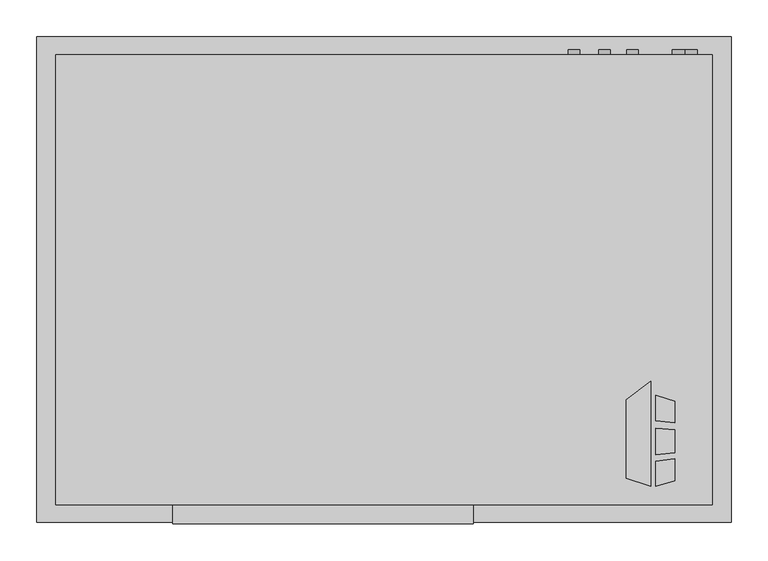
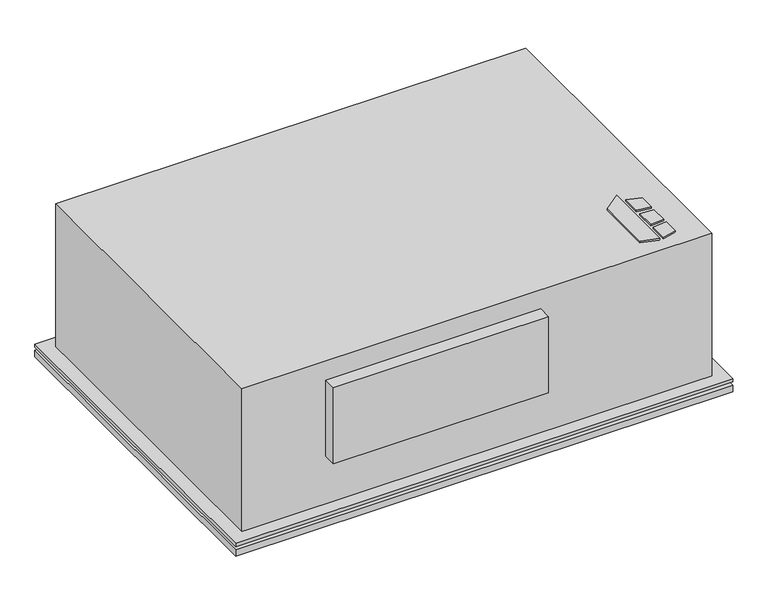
"""IFC4 building model written with IfcOpenShell, lengths in millimetres: proxy geometry, Horizontal_Telescoping_Fan_Coil_Unit_-_CBY_-_IEC_-_4-Pipe_RH_2022 : Size 02 - 277v/60Hz/1Ph - 4/1 Coil."""

from ifc_helpers import new_model, si_unit, point, frame, frame_2d, origin, origin_with_axes, place, context, project, spatial, polyline, circle_curve, trimmed, segment, composite_curve, outline, extrude, source, transform, mapped, element, save


def mechanical_equipment_7146fa5c(model_context):
    return source(origin(), model_context, "Body", "SweptSolid", [
        extrude(outline(polyline([(480.7019761, -401.0078476), (513.2602728, -375.5705184), (513.2602728, -517.525), (480.7019761, -507.3054201), (480.7019761, -401.0078476)])), origin_with_axes(), (0.0, 0.0, 1.0), 3.175),
        extrude(outline(polyline([(520.0186058, -428.879852), (520.0186058, -394.3999379), (546.1, -402.5865115), (546.1, -432.0822446), (520.0186058, -428.879852)])), origin_with_axes(), (0.0, 0.0, 1.0), 3.175),
        extrude(outline(polyline([(546.1, -510.5365115), (520.0186058, -517.525), (520.0186058, -484.3036996), (546.1, -480.7618564), (546.1, -510.5365115)])), origin_with_axes(), (0.0, 0.0, 1.0), 3.175),
        extrude(outline(polyline([(546.1, -441.1638277), (546.1, -472.413983), (520.0186058, -475.155248), (520.0186058, -439.2975378), (546.1, -441.1638277)])), origin_with_axes(), (0.0, 0.0, 1.0), 3.175),
        extrude(outline(composite_curve([segment(trimmed(circle_curve(frame_2d((-60.325, 409.575)), 7.9375), [point((-60.325, 417.5125))], [point((-60.325, 401.6375))], False, "CARTESIAN"), True, "CONTINUOUS"), segment(trimmed(circle_curve(frame_2d((-60.325, 409.575)), 7.9375), [point((-60.325, 401.6375))], [point((-60.325, 417.5125))], False, "CARTESIAN"), True, "CONTINUOUS")], self_intersect=False)), frame((0.0, 66.675, 0.0), z_axis=(0.0, 1.0, 0.0), x_axis=(0.0, 0.0, 1.0)), (0.0, 0.0, 1.0), 6.35),
        extrude(outline(composite_curve([segment(trimmed(circle_curve(frame_2d((-95.25, 450.85)), 7.9375), [point((-95.25, 458.7875))], [point((-95.25, 442.9125))], False, "CARTESIAN"), True, "CONTINUOUS"), segment(trimmed(circle_curve(frame_2d((-95.25, 450.85)), 7.9375), [point((-95.25, 442.9125))], [point((-95.25, 458.7875))], False, "CARTESIAN"), True, "CONTINUOUS")], self_intersect=False)), frame((0.0, 66.675, 0.0), z_axis=(0.0, 1.0, 0.0), x_axis=(0.0, 0.0, 1.0)), (0.0, 0.0, 1.0), 6.35),
        extrude(outline(composite_curve([segment(trimmed(circle_curve(frame_2d((-44.45, 488.95)), 7.9375), [point((-44.45, 496.8875))], [point((-44.45, 481.0125))], False, "CARTESIAN"), True, "CONTINUOUS"), segment(trimmed(circle_curve(frame_2d((-44.45, 488.95)), 7.9375), [point((-44.45, 481.0125))], [point((-44.45, 496.8875))], False, "CARTESIAN"), True, "CONTINUOUS")], self_intersect=False)), frame((0.0, 66.675, 0.0), z_axis=(0.0, 1.0, 0.0), x_axis=(0.0, 0.0, 1.0)), (0.0, 0.0, 1.0), 6.35),
        extrude(outline(composite_curve([segment(trimmed(circle_curve(frame_2d((-85.725, 568.325)), 7.9375), [point((-85.725, 576.2625))], [point((-85.725, 560.3875))], False, "CARTESIAN"), True, "CONTINUOUS"), segment(trimmed(circle_curve(frame_2d((-85.725, 568.325)), 7.9375), [point((-85.725, 560.3875))], [point((-85.725, 576.2625))], False, "CARTESIAN"), True, "CONTINUOUS")], self_intersect=False)), frame((0.0, 66.675, 0.0), z_axis=(0.0, 1.0, 0.0), x_axis=(0.0, 0.0, 1.0)), (0.0, 0.0, 1.0), 6.35),
        extrude(outline(composite_curve([segment(trimmed(circle_curve(frame_2d((-260.35, 552.45)), 9.525), [point((-260.35, 561.975))], [point((-260.35, 542.925))], False, "CARTESIAN"), True, "CONTINUOUS"), segment(trimmed(circle_curve(frame_2d((-260.35, 552.45)), 9.525), [point((-260.35, 542.925))], [point((-260.35, 561.975))], False, "CARTESIAN"), True, "CONTINUOUS")], self_intersect=False)), frame((0.0, 66.675, 0.0), z_axis=(0.0, 1.0, 0.0), x_axis=(0.0, 0.0, 1.0)), (0.0, 0.0, 1.0), 6.35),
        extrude(outline(polyline([(622.3, 90.4875), (622.3, -566.7375), (-317.5, -566.7375), (-317.5, 90.4875), (622.3, 90.4875)])), frame((0.0, 0.0, -311.15), z_axis=(0.0, 0.0, 1.0), x_axis=(1.0, 0.0, 0.0)), (0.0, 0.0, 1.0), 12.7),
        extrude(outline(polyline([(622.3, 90.4875), (622.3, -566.7375), (-317.5, -566.7375), (-317.5, 90.4875), (622.3, 90.4875)])), frame((0.0, 0.0, -292.1), z_axis=(0.0, 0.0, 1.0), x_axis=(1.0, 0.0, 0.0)), (0.0, 0.0, 1.0), 6.35),
        extrude(outline(polyline([(596.9, 65.0875), (596.9, -541.3375), (-292.1, -541.3375), (-292.1, 65.0875), (596.9, 65.0875)])), frame((0.0, 0.0, -298.45), z_axis=(0.0, 0.0, 1.0), x_axis=(1.0, 0.0, 0.0)), (0.0, 0.0, 1.0), 6.35),
        extrude(outline(polyline([(273.05, -568.325), (-133.35, -568.325), (-133.35, -542.925), (273.05, -542.925), (273.05, -568.325)])), frame((0.0, 0.0, -190.5), z_axis=(0.0, 0.0, 1.0), x_axis=(1.0, 0.0, 0.0)), (0.0, 0.0, 1.0), 152.4),
        extrude(outline(polyline([(-292.1, 66.675), (596.9, 66.675), (596.9, -542.925), (-292.1, -542.925), (-292.1, 66.675)])), frame((0.0, 0.0, -285.75), z_axis=(0.0, 0.0, 1.0), x_axis=(1.0, 0.0, 0.0)), (0.0, 0.0, 1.0), 285.75),
        extrude(outline(polyline([(508.0, -9.525), (508.0, -263.525), (-203.2, -263.525), (-203.2, -9.525), (508.0, -9.525)])), frame((0.0, 0.0, -317.5), z_axis=(0.0, 0.0, 1.0), x_axis=(1.0, 0.0, 0.0)), (0.0, 0.0, 1.0), 6.35),
    ])


if __name__ == "__main__":
    model = new_model("IFC4")
    model_context = context("Model", 3, world=origin())
    ifc_project = project(units=[si_unit("LENGTHUNIT", "METRE", prefix="MILLI")], contexts=[model_context])
    site = spatial("IfcSite", under=ifc_project)
    building = spatial("IfcBuilding", under=site)
    placement = place(None, origin())
    mechanical_equipment_shape = mechanical_equipment_7146fa5c(model_context)
    element("IfcBuildingElementProxy", 1, Name="Horizontal_Telescoping_Fan_Coil_Unit_-_CBY_-_IEC_-_4-Pipe_RH_2022 : Size 02 - 277v/60Hz/1Ph - 4/1 Coil", ObjectType="Horizontal_Telescoping_Fan_Coil_Unit_-_CBY_-_IEC_-_4-Pipe_RH_2022 : Size 02 - 277v/60Hz/1Ph - 4/1 Coil", at=placement, inside=building, context=model_context, shape_type="MappedRepresentation", body=[
        mapped(mechanical_equipment_shape, transform((0.0, 0.0, 0.0), x_axis=(1.0, 0.0, 0.0), y_axis=(0.0, 1.0, 0.0), z_axis=(0.0, 0.0, 1.0))),
    ])
    save(model, "model.ifc")
